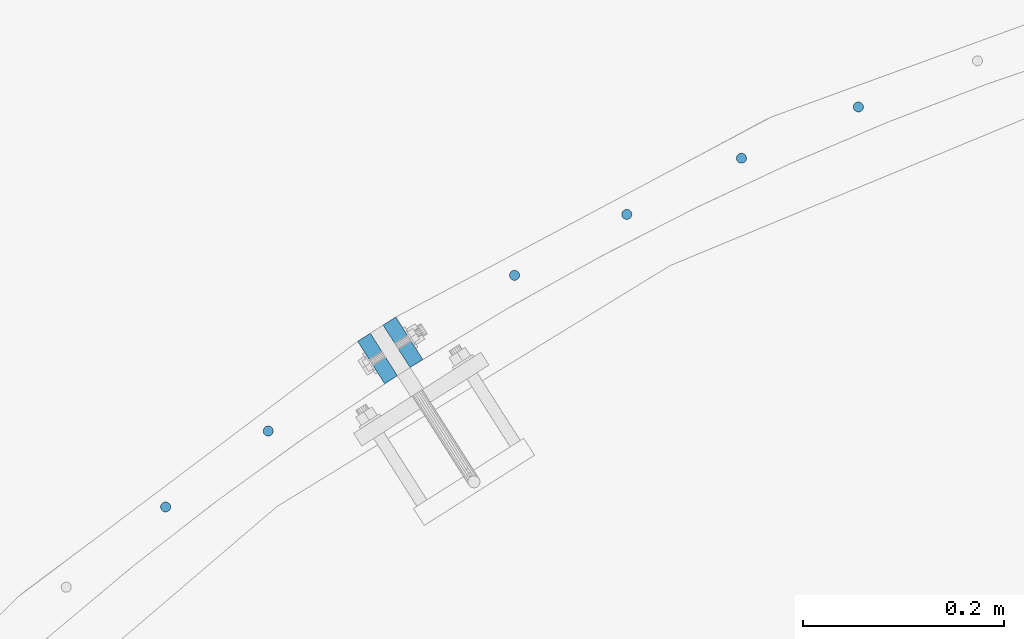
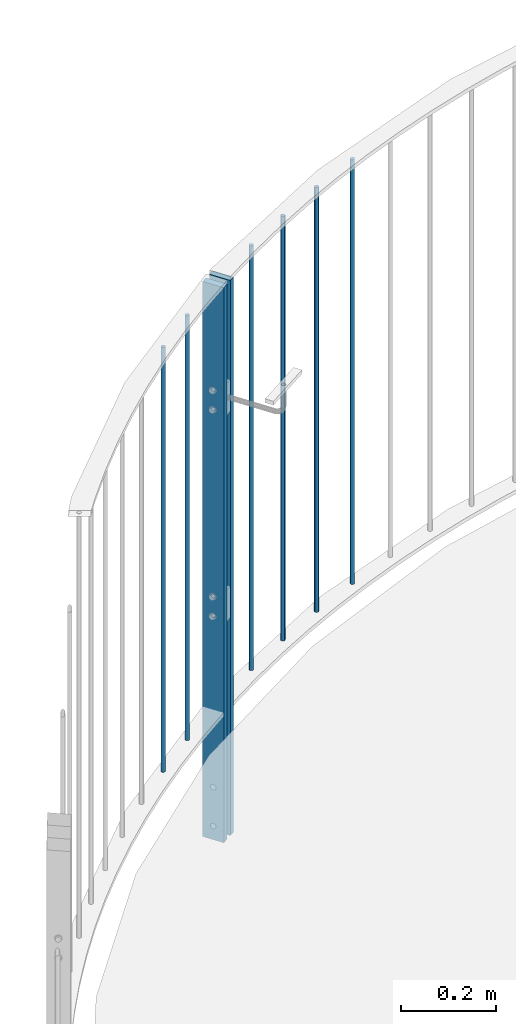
# One storey, part 69 of 296: 8 columns, 12 openings.
"""IFC2X3 building model written with IfcOpenShell, lengths in millimetres."""

from ifc_helpers import new_model, entity, si_unit, converted_unit, frame, frame_2d, origin, origin_with_axes, origin_2d, place, context, project, spatial, rectangle, circle, extrude, material, element, save


model = new_model("IFC2X3")

# Units and contexts
model_context = context("Model", 3, precision=1e-09, world=origin_with_axes())
ifc_project = project(units=[si_unit("LENGTHUNIT", "METRE", prefix="MILLI"), si_unit("AREAUNIT", "SQUARE_METRE"), si_unit("VOLUMEUNIT", "CUBIC_METRE"), converted_unit("PLANEANGLEUNIT", "DEGREE", entity("IfcPlaneAngleMeasure", 0.01745329), si_unit("PLANEANGLEUNIT", "RADIAN"), dimensions=[0, 0, 0, 0, 0, 0, 0])], contexts=[model_context])

# Site, building, storey
site_placement = place(None, origin_with_axes())
site = spatial("IfcSite", under=ifc_project, at=site_placement, Name="TZD-S?d | Treppenhausgel?nder", CompositionType="ELEMENT")
building_placement = place(site_placement, origin_with_axes())
building = spatial("IfcBuilding", under=site, at=building_placement, Name="Struktur 1", CompositionType="ELEMENT")
storey_placement = place(building_placement, origin_with_axes())
storey = spatial("IfcBuildingStorey", under=building, at=storey_placement, Name="Default Storey", CompositionType="ELEMENT", Elevation=0.0)

# Columns
ifc_material = material(Name="S235JR")
for number, where, z_axis, x_axis in (
    (1, (1095.113445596, 2266.022423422, 2450.0), (0.0, 0.0, 1.0), (0.422618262, 0.906307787, 0.0)),
    (2, (1197.189451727, 2341.511969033, 2450.0), (0.0, 0.0, 1.0), (0.422618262, 0.906307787, 0.0)),
    (3, (1442.120002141, 2496.374672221, 2450.0), (0.0, 0.0, 1.0), (0.766044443, 0.64278761, 0.0)),
    (4, (1553.675949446, 2556.983690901, 2450.0), (0.0, 0.0, 1.0), (0.766044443, 0.64278761, 0.0)),
    (5, (1667.70425369, 2612.802400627, 2450.0), (0.0, 0.0, 1.0), (0.766044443, 0.64278761, 0.0)),
    (6, (1783.999332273, 2663.730165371, 2450.0), (0.0, 0.0, 1.0), (0.766044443, 0.64278761, 0.0)),
):
    element("IfcColumn", number, at=place(None, frame(where, z_axis=z_axis, x_axis=x_axis)), inside=storey, material=ifc_material, Name="-", ObjectType="-", context=model_context, shape_type="SweptSolid", body=[
        extrude(circle(Radius=5.0, at=origin_2d()), origin(), (0.0, 0.0, 1.0), 1090.0),
    ])

# Column, openings
column_1_placement = place(None, frame((1331.12504273, 2429.799917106, 2115.001), z_axis=(0.0, 0.0, -1.0), x_axis=(-0.843391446, -0.537299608, 0.0)))
column_1 = element("IfcColumn", 7, at=column_1_placement, inside=storey, material=ifc_material, Name="-", ObjectType="-", context=model_context, shape_type="SweptSolid", body=[
    extrude(rectangle(XDim=15.0, YDim=50.0, at=origin_2d()), origin(), (0.0, 0.0, -1.0), 1424.999),
])
opening_1_placement = place(column_1_placement, frame((-8.0, 0.0, -599.999999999), z_axis=(1.0, 0.0, 0.0), x_axis=(0.0, -1.0, 0.0)))
element("IfcOpeningElement", 8, at=opening_1_placement, cuts=column_1, ObjectType="Opening", context=model_context, shape_type="SweptSolid", body=[
    extrude(circle(Radius=5.001, at=frame_2d((0.0, 25.0), x_axis=(1.0, 0.0))), origin(), (0.0, 0.0, 1.0), 16.0),
])
opening_2_placement = place(column_1_placement, frame((-8.0, 0.0, -599.999999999), z_axis=(1.0, 0.0, 0.0), x_axis=(0.0, -1.0, 0.0)))
element("IfcOpeningElement", 9, at=opening_2_placement, cuts=column_1, ObjectType="Opening", context=model_context, shape_type="SweptSolid", body=[
    extrude(circle(Radius=5.001, at=frame_2d((0.0, -25.0), x_axis=(1.0, 0.0))), origin(), (0.0, 0.0, 1.0), 16.0),
])
opening_3_placement = place(column_1_placement, frame((-8.0, 0.0, -1129.999999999), z_axis=(1.0, 0.0, 0.0), x_axis=(0.0, -1.0, 0.0)))
element("IfcOpeningElement", 10, at=opening_3_placement, cuts=column_1, ObjectType="Opening", context=model_context, shape_type="SweptSolid", body=[
    extrude(circle(Radius=5.001, at=frame_2d((0.0, 25.0), x_axis=(1.0, 0.0))), origin(), (0.0, 0.0, 1.0), 16.0),
])
opening_4_placement = place(column_1_placement, frame((-8.0, 0.0, -1129.999999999), z_axis=(1.0, 0.0, 0.0), x_axis=(0.0, -1.0, 0.0)))
element("IfcOpeningElement", 11, at=opening_4_placement, cuts=column_1, ObjectType="Opening", context=model_context, shape_type="SweptSolid", body=[
    extrude(circle(Radius=5.001, at=frame_2d((0.0, -25.0), x_axis=(1.0, 0.0))), origin(), (0.0, 0.0, 1.0), 16.0),
])
opening_5_placement = place(column_1_placement, frame((-8.0, 0.0, -85.0), z_axis=(1.0, 0.0, 0.0), x_axis=(0.0, -1.0, 0.0)))
element("IfcOpeningElement", 12, at=opening_5_placement, cuts=column_1, ObjectType="Opening", context=model_context, shape_type="SweptSolid", body=[
    extrude(circle(Radius=7.001, at=frame_2d((0.0, 50.0), x_axis=(1.0, 0.0))), origin(), (0.0, 0.0, 1.0), 16.0),
])
opening_6_placement = place(column_1_placement, frame((-8.0, 0.0, -85.0), z_axis=(1.0, 0.0, 0.0), x_axis=(0.0, -1.0, 0.0)))
element("IfcOpeningElement", 13, at=opening_6_placement, cuts=column_1, ObjectType="Opening", context=model_context, shape_type="SweptSolid", body=[
    extrude(circle(Radius=7.001, at=frame_2d((0.0, -50.0), x_axis=(1.0, 0.0))), origin(), (0.0, 0.0, 1.0), 16.0),
])

column_2_placement = place(None, frame((1305.823299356, 2413.680928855, 2115.001), z_axis=(0.0, 0.0, 1.0), x_axis=(0.843391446, 0.537299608, 0.0)))
column_2 = element("IfcColumn", 14, at=column_2_placement, inside=storey, material=ifc_material, Name="-", ObjectType="-", context=model_context, shape_type="SweptSolid", body=[
    extrude(rectangle(XDim=15.0, YDim=50.0, at=origin_2d()), origin(), (0.0, 0.0, 1.0), 1424.999),
])
opening_7_placement = place(column_2_placement, frame((8.0, 0.0, 85.0), z_axis=(-1.0, 0.0, 0.0), x_axis=(0.0, -1.0, 0.0)))
element("IfcOpeningElement", 15, at=opening_7_placement, cuts=column_2, ObjectType="Opening", context=model_context, shape_type="SweptSolid", body=[
    extrude(circle(Radius=7.001, at=frame_2d((0.0, 50.0), x_axis=(1.0, 0.0))), origin(), (0.0, 0.0, 1.0), 16.0),
])
opening_8_placement = place(column_2_placement, frame((8.0, 0.0, 85.0), z_axis=(-1.0, 0.0, 0.0), x_axis=(0.0, -1.0, 0.0)))
element("IfcOpeningElement", 16, at=opening_8_placement, cuts=column_2, ObjectType="Opening", context=model_context, shape_type="SweptSolid", body=[
    extrude(circle(Radius=7.001, at=frame_2d((0.0, -50.0), x_axis=(1.0, 0.0))), origin(), (0.0, 0.0, 1.0), 16.0),
])
opening_9_placement = place(column_2_placement, frame((8.0, 0.0, 599.999999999), z_axis=(-1.0, 0.0, 0.0), x_axis=(0.0, -1.0, 0.0)))
element("IfcOpeningElement", 17, at=opening_9_placement, cuts=column_2, ObjectType="Opening", context=model_context, shape_type="SweptSolid", body=[
    extrude(circle(Radius=5.001, at=frame_2d((0.0, 25.0), x_axis=(1.0, 0.0))), origin(), (0.0, 0.0, 1.0), 16.0),
])
opening_10_placement = place(column_2_placement, frame((8.0, 0.0, 599.999999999), z_axis=(-1.0, 0.0, 0.0), x_axis=(0.0, -1.0, 0.0)))
element("IfcOpeningElement", 18, at=opening_10_placement, cuts=column_2, ObjectType="Opening", context=model_context, shape_type="SweptSolid", body=[
    extrude(circle(Radius=5.001, at=frame_2d((0.0, -25.0), x_axis=(1.0, 0.0))), origin(), (0.0, 0.0, 1.0), 16.0),
])
opening_11_placement = place(column_2_placement, frame((8.0, 0.0, 1129.999999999), z_axis=(-1.0, 0.0, 0.0), x_axis=(0.0, -1.0, 0.0)))
element("IfcOpeningElement", 19, at=opening_11_placement, cuts=column_2, ObjectType="Opening", context=model_context, shape_type="SweptSolid", body=[
    extrude(circle(Radius=5.001, at=frame_2d((0.0, 25.0), x_axis=(1.0, 0.0))), origin(), (0.0, 0.0, 1.0), 16.0),
])
opening_12_placement = place(column_2_placement, frame((8.0, 0.0, 1129.999999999), z_axis=(-1.0, 0.0, 0.0), x_axis=(0.0, -1.0, 0.0)))
element("IfcOpeningElement", 20, at=opening_12_placement, cuts=column_2, ObjectType="Opening", context=model_context, shape_type="SweptSolid", body=[
    extrude(circle(Radius=5.001, at=frame_2d((0.0, -25.0), x_axis=(1.0, 0.0))), origin(), (0.0, 0.0, 1.0), 16.0),
])

save(model, "model.ifc")
